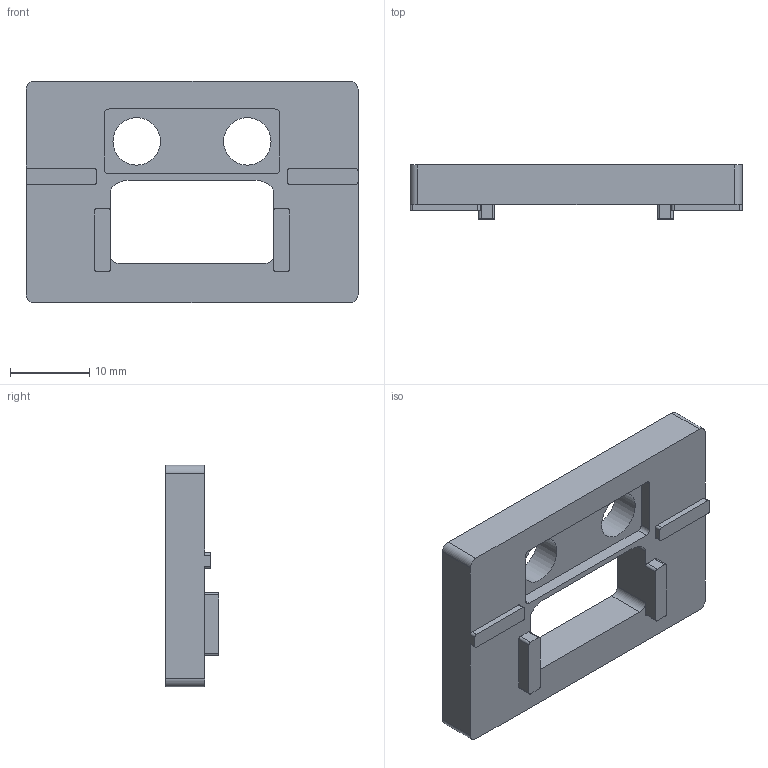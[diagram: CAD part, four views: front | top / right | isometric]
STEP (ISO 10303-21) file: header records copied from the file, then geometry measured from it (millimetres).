
FILE_DESCRIPTION(/* description */ (''),/* implementation_level */ '2;1');
FILE_NAME(/* name */ 'HMG7-Gantry-Adapter-Core-Magnet.step',/* time_stamp */ '2022-11-01T21:05:18-07:00',/* author */ (''),/* organization */ (''),/* preprocessor_version */ 'ST-DEVELOPER v19.2',/* originating_system */ 'Autodesk Translation Framework v11.17.0.187',/* authorisation */ '');
FILE_SCHEMA (('AUTOMOTIVE_DESIGN { 1 0 10303 214 3 1 1 }'));
Length unit declared in the file: millimetre
Products named in the file (4): GEN_7_1.5; Gantry Adapter Magnet Master v8; Magnet Step Master; ME_Bare
Assembly tree (3 placements, depth 4):
  GEN_7_1.5
    Gantry Adapter Magnet Master v8
      Magnet Step Master
        ME_Bare
Bounding box: 42 x 6.8 x 28 mm (x, y, z)
Volume: 3384.3 mm3; surface area: 3549.6 mm2
Topology: 1 solids, 1 shells, 73 faces, 204 edges, 136 vertices
Faces by surface type: plane 41, cylinder 32
Full cylindrical faces by diameter (mm): 6 x2
Entity records: 2481 total; most frequent: DIRECTION 428, CARTESIAN_POINT 420, ORIENTED_EDGE 408, EDGE_CURVE 204, AXIS2_PLACEMENT_3D 144, LINE 140, VECTOR 140, VERTEX_POINT 136
